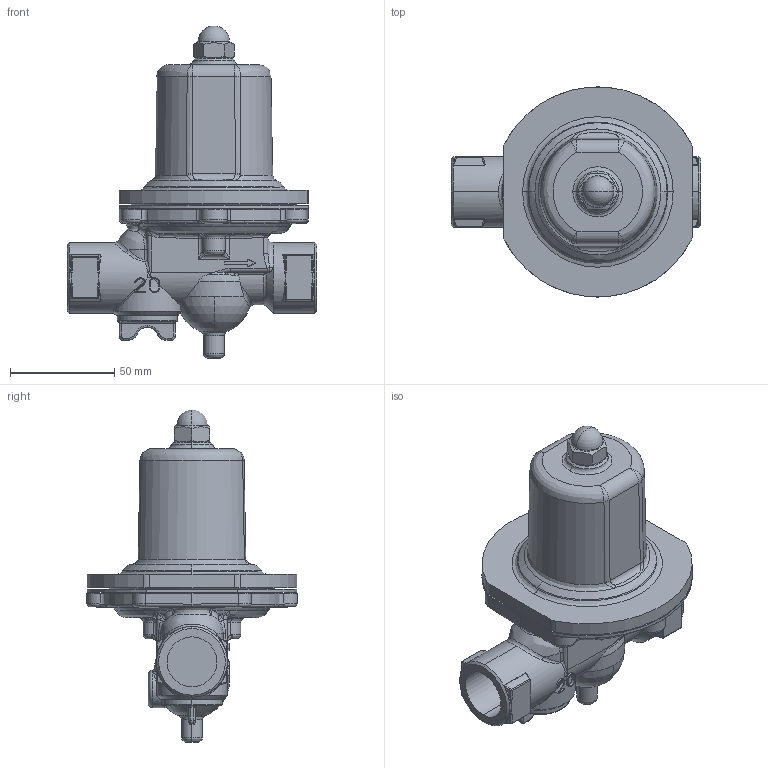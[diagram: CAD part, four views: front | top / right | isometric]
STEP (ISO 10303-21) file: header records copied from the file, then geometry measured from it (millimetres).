
FILE_DESCRIPTION( (''), '2;1');
FILE_NAME ('PC1276.2692.GD-26-NE 20A_29959.stp','2025-02-03T17:49:11',(''),(''),'spGate 20.6.3 (****-****-****-****)','','');
FILE_SCHEMA (('AUTOMOTIVE_DESIGN'));
Length unit declared in the file: millimetre
Products named in the file (6): Assembly; GD-26-NE 弁箱 20A; GD-26-NE ダイヤフラム 15-25A; GD-26-NE 保護筒 15-25A; GD-26-NE 六角袋ナット 15-25A; GD-26-NE ストレーナキャップ 15-20A
Assembly tree (5 placements, depth 2):
  Assembly
    GD-26-NE 弁箱 20A
    GD-26-NE ダイヤフラム 15-25A
    GD-26-NE 保護筒 15-25A
    GD-26-NE 六角袋ナット 15-25A
    GD-26-NE ストレーナキャップ 15-20A
Bounding box: 120 x 101 x 159.5 mm (x, y, z)
Volume: 409711.7 mm3; surface area: 79722.6 mm2
Topology: 5 solids, 5 shells, 611 faces, 1495 edges, 841 vertices
Faces by surface type: bspline 301, cylinder 169, plane 101, sphere 40
Entity records: 38259 total; most frequent: CARTESIAN_POINT 14852, ORIENTED_EDGE 2856, COLOUR_RGB 2044, PRESENTATION_STYLE_ASSIGNMENT 2044, STYLED_ITEM 2044, DIRECTION 1981, EDGE_CURVE 1428, DRAUGHTING_PRE_DEFINED_CURVE_FONT 1428
